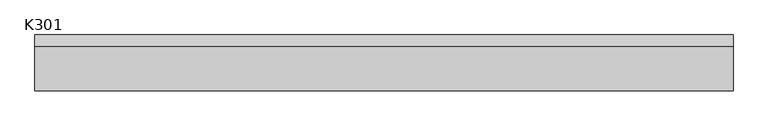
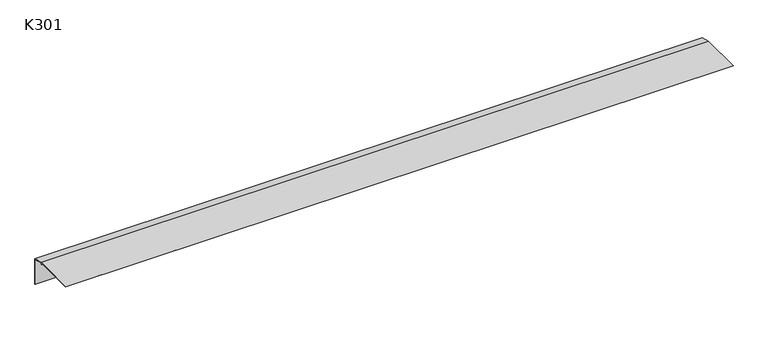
"""IFC4 building model written with IfcOpenShell, lengths in millimetres: proxy geometry, K301 Profil okapowy prosty : K301."""

from ifc_helpers import new_model, si_unit, frame, origin, place, context, project, spatial, polyline, outline, extrude, source, transform, mapped, element, save


def k301_849724ee(model_context):
    return source(origin(), model_context, "Body", "SweptSolid", [
        extrude(outline(polyline([(21.5, -6.0), (21.5, -56.0), (20.0, -55.4735048), (20.0, -7.116046), (1.5, -1.566046), (1.5, -4.5), (0.0, -4.5), (0.0, -1.5004157), (-77.0164314, -1.5004157), (-78.5, 0.0), (1.5, 0.0), (21.5, -6.0)])), frame((0.0, 0.0, 0.0), z_axis=(1.0, 0.0, 0.0), x_axis=(0.0, 1.0, 0.0)), (0.0, 0.0, 1.0), 1249.1751018),
    ])


if __name__ == "__main__":
    model = new_model("IFC4")
    model_context = context("Model", 3, world=origin())
    ifc_project = project(units=[si_unit("LENGTHUNIT", "METRE", prefix="MILLI")], contexts=[model_context])
    site = spatial("IfcSite", under=ifc_project)
    building = spatial("IfcBuilding", under=site)
    placement = place(None, origin())
    k301_shape = k301_849724ee(model_context)
    element("IfcBuildingElementProxy", 1, Name="K301 Profil okapowy prosty : K301", ObjectType="K301 Profil okapowy prosty : K301", at=placement, inside=building, context=model_context, shape_type="MappedRepresentation", body=[
        mapped(k301_shape, transform((0.0, 0.0, 0.0), x_axis=(1.0, 0.0, 0.0), y_axis=(0.0, 1.0, 0.0), z_axis=(0.0, 0.0, 1.0))),
    ])
    save(model, "model.ifc")
